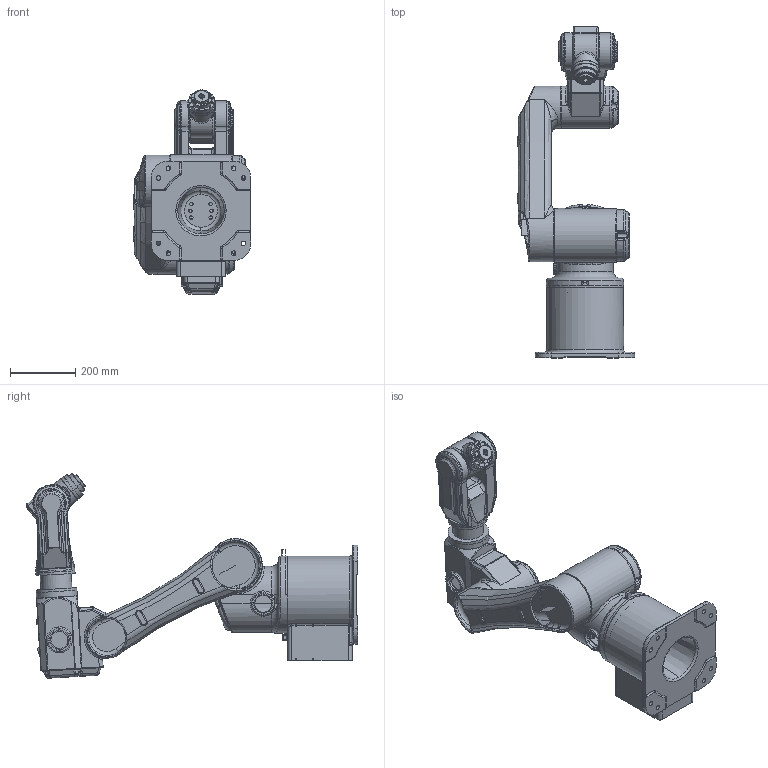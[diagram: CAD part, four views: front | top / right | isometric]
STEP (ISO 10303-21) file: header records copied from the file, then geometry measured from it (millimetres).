
FILE_DESCRIPTION((''),'2;1');
FILE_NAME('LT950-B-6_ASM','2022-12-14T14:19:41',('EBDGC-08'),(''),'CREO PARAMETRIC BY PTC INC, 2021063','CREO PARAMETRIC BY PTC INC, 2021063','');
FILE_SCHEMA(('AUTOMOTIVE_DESIGN { 1 0 10303 214 1 1 1 1 }'));
Length unit declared in the file: millimetre
Products named in the file (7): 01; 004; 00; 002; 000; 003; LT950-B-6_ASM
Assembly tree (6 placements, depth 2):
  LT950-B-6_ASM
    01
    004
    00
    002
    000
    003
Bounding box: 359.01 x 1015.25 x 625.35 mm (x, y, z)
Surface area: 2478481 mm2 (no closed solid volume)
Topology: 0 solids, 74 shells, 2257 faces, 8278 edges, 5816 vertices
Faces by surface type: cylinder 742, plane 543, bspline 441, torus 319, cone 106, sphere 70, extrusion 36
Entity records: 159621 total; most frequent: CARTESIAN_POINT 82835, DIRECTION 14011, ORIENTED_EDGE 13397, EDGE_CURVE 8211, VERTEX_POINT 5816, AXIS2_PLACEMENT_3D 5679, CIRCLE 3817, EDGE_LOOP 2678
